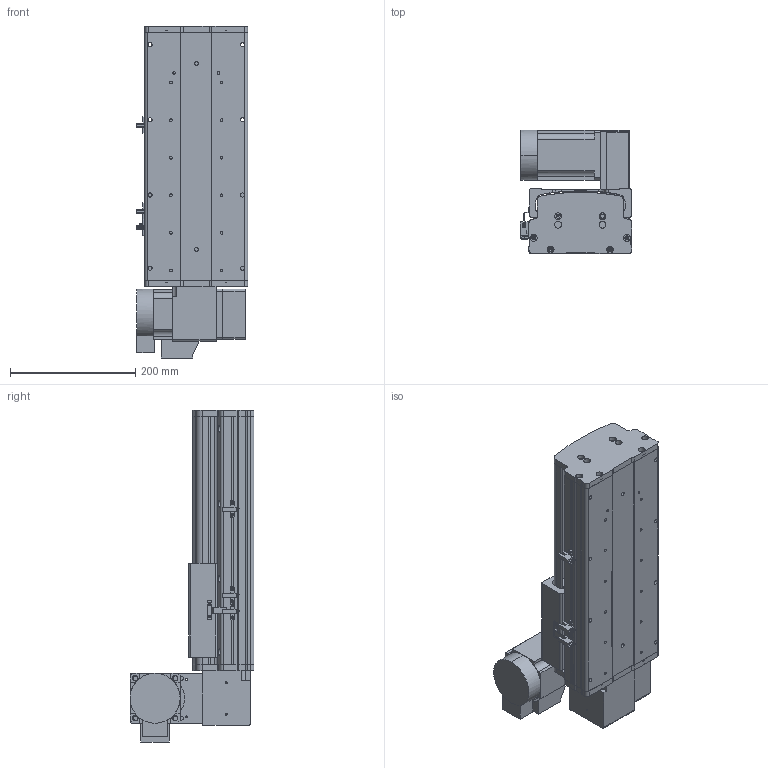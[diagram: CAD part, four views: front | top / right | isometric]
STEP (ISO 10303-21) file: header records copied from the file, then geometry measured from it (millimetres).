
FILE_DESCRIPTION (( 'STEP AP214' ), '1' );
FILE_NAME ('KSD165B-S150-MRU-CM .STEP', '2017-10-17T01:53:42', ( '微软用户' ), ( '微软中国' ), 'SwSTEP 2.0', 'SolidWorks 2014', '' );
FILE_SCHEMA (( 'AUTOMOTIVE_DESIGN' ));
Length unit declared in the file: millimetre
Products named in the file (17): 130宽模组马达安装板连板上下折丝杆同步带; 130宽模组保护罩上下左右折-同步带; HTPA26S5M250-A-H8 750W萇儂蚚; HTPA26S5M250-A-H8 400W萇儂蚚 ; KSD165模组-同步带防尘盖1-150行程-最新版; KSD165模组同步带底板-150行程-最新; 拸秶雄ん750W侜督萇儂; 165宽马达安装板同步带右; U倰嫖萇假蚾璃; U倰嫖萇EEㄜSX672; 覜茼え68遵圉猾敕; KSD165模组-同步带-防撞垫2; KSD165模组同步带-防撞垫1; KSD165耀郪-ヶ傷啣1-肮祭湍; KSD165模组-后端板1-同步带; KSD165模组-同步带滑动座-最新版; KSD165B-S150-MRU-CM 
Assembly tree (20 placements, depth 2):
  KSD165B-S150-MRU-CM 
    KSD165模组-同步带滑动座-最新版
    KSD165模组-后端板1-同步带
    KSD165耀郪-ヶ傷啣1-肮祭湍
    KSD165模组同步带-防撞垫1
    KSD165模组-同步带-防撞垫2
    覜茼え68遵圉猾敕
    U倰嫖萇EEㄜSX672  x3
    U倰嫖萇假蚾璃  x3
    165宽马达安装板同步带右
    拸秶雄ん750W侜督萇儂
    KSD165模组同步带底板-150行程-最新
    KSD165模组-同步带防尘盖1-150行程-最新版
    HTPA26S5M250-A-H8 400W萇儂蚚 
    HTPA26S5M250-A-H8 750W萇儂蚚
    130宽模组保护罩上下左右折-同步带
    130宽模组马达安装板连板上下折丝杆同步带
Bounding box: 178.7 x 198 x 530.5 mm (x, y, z)
Volume: 4080185.3 mm3; surface area: 937793.3 mm2
Topology: 21 solids, 21 shells, 1849 faces, 5202 edges, 3392 vertices
Faces by surface type: cylinder 1163, plane 574, cone 112
Entity records: 58972 total; most frequent: CARTESIAN_POINT 12088, DIRECTION 9782, ORIENTED_EDGE 9064, EDGE_CURVE 4532, AXIS2_PLACEMENT_3D 3820, VERTEX_POINT 2984, CIRCLE 2168, VECTOR 2142
